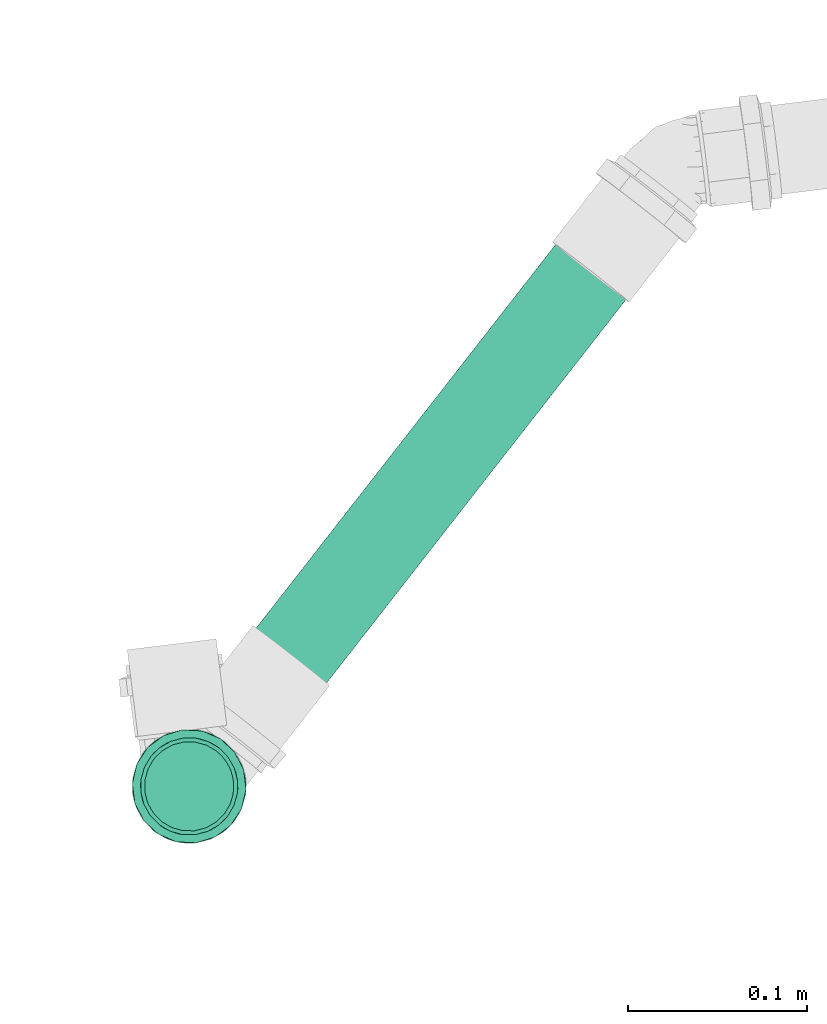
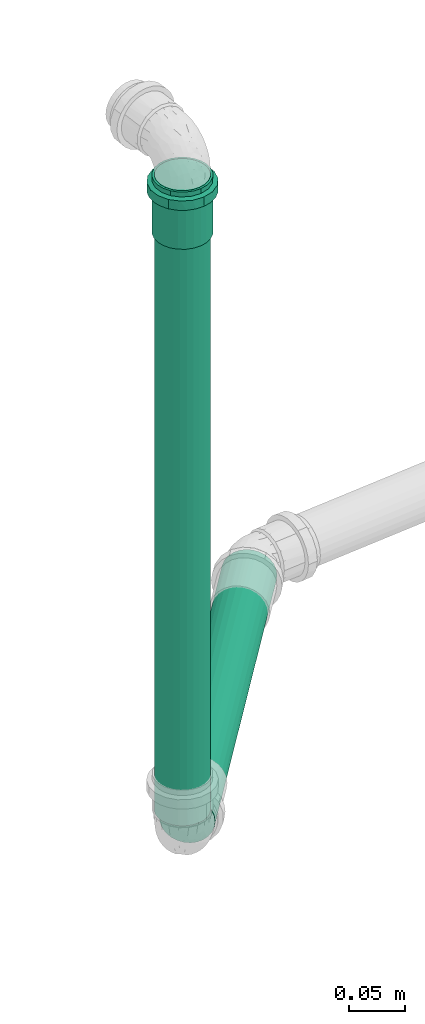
# One storey, part 32 of 97: 2 flow segments, 1 flow fitting.
"""IFC2X3 building model written with IfcOpenShell, lengths in centimetres."""

import ifcopenshell
import ifcopenshell.guid

model = None  # the IFC model being written
_history = None  # IfcOwnerHistory: only IFC2X3 demands one
_inside = {}  # id of a spatial element -> (the spatial element, [elements in it])
_under = {}  # id of a project, library or spatial element -> (it, [spatial elements below it])
_declared = {}  # id of a project -> (the project, [libraries it declares])
_typed = {}  # id of a type object -> (the type object, [elements of that type])
_made_of = {}  # id of a material, layer set ... -> (it, [elements and type objects made of it])


def new_model(schema):
    """Start an empty IFC model of exactly this schema.

    Asked for "IFC4X3", IfcOpenShell would pick the latest addendum, in which some entities
    have other attributes; the version numbers below select the first issue.
    IFC2X3 requires an IfcOwnerHistory on every rooted entity: one is made here for all.
    """
    global model, _history
    if schema == "IFC4X3":
        model = ifcopenshell.file(schema_version=(4, 3, 0, 0))
    else:
        model = ifcopenshell.file(schema=schema)
    _inside.clear()
    _under.clear()
    _declared.clear()
    _typed.clear()
    _made_of.clear()
    _history = None
    if model.schema == "IFC2X3":
        org = make("IfcOrganization", Name="unknown")
        user = make(
            "IfcPersonAndOrganization",
            ThePerson=make("IfcPerson", FamilyName="unknown"),
            TheOrganization=org,
        )
        app = make(
            "IfcApplication",
            ApplicationDeveloper=org,
            Version="unknown",
            ApplicationFullName="unknown",
            ApplicationIdentifier="unknown",
        )
        _history = make(
            "IfcOwnerHistory",
            OwningUser=user,
            OwningApplication=app,
            ChangeAction="ADDED",
            CreationDate=0,
        )
    return model


def make(cls, **values):
    """One entity of the class cls with the attributes given. An attribute that is None is left unset."""
    return model.create_entity(
        cls, **{name: value for name, value in values.items() if value is not None}
    )


def entity(cls, *values):
    """Any entity or typed value of the class cls, its attributes in the order of the schema. None: left unset."""
    e = model.create_entity(cls)
    for i, value in enumerate(values):
        if value is not None:
            e[i] = value
    return e


def rooted(cls, **values):
    """An entity with a GlobalId (a new one), such as an element, a storey or a relation."""
    return make(cls, GlobalId=ifcopenshell.guid.new(), OwnerHistory=_history, **values)


def si_unit(unit_type, name, prefix=None):
    """IfcSIUnit, for example si_unit("LENGTHUNIT", "METRE", prefix="MILLI")."""
    return make("IfcSIUnit", UnitType=unit_type, Prefix=prefix, Name=name)


def converted_unit(unit_type, name, factor, base, dimensions=None, offset=None):
    """IfcConversionBasedUnit, such as the inch: factor (a typed value) times the base unit."""
    return make(
        "IfcConversionBasedUnit"
        if offset is None
        else "IfcConversionBasedUnitWithOffset",
        ConversionOffset=offset,
        Dimensions=None
        if dimensions is None
        else entity("IfcDimensionalExponents", *dimensions),
        UnitType=unit_type,
        Name=name,
        ConversionFactor=make(
            "IfcMeasureWithUnit", ValueComponent=factor, UnitComponent=base
        ),
    )


def derived_unit(unit_type, elements):
    """IfcDerivedUnit: a product of units, each with its exponent."""
    return make(
        "IfcDerivedUnit",
        Elements=[
            make("IfcDerivedUnitElement", Unit=unit, Exponent=power)
            for unit, power in elements
        ],
        UnitType=unit_type,
    )


def assignment(units):
    """IfcUnitAssignment: the units of a project."""
    return None if units is None else make("IfcUnitAssignment", Units=units)


def point(xyz):
    """IfcCartesianPoint."""
    return None if xyz is None else make("IfcCartesianPoint", Coordinates=xyz)


def direction(xyz):
    """IfcDirection."""
    return None if xyz is None else make("IfcDirection", DirectionRatios=xyz)


def frame(location, z_axis=None, x_axis=None):
    """IfcAxis2Placement3D, a coordinate frame: its origin and axes. An axis left out is left unset."""
    return make(
        "IfcAxis2Placement3D",
        Location=point(location),
        Axis=direction(z_axis),
        RefDirection=direction(x_axis),
    )


def frame_2d(location, x_axis=None):
    """IfcAxis2Placement2D, a coordinate frame in the plane: its origin and x axis."""
    return make(
        "IfcAxis2Placement2D", Location=point(location), RefDirection=direction(x_axis)
    )


def origin():
    """The frame at (0, 0, 0) with its axes left unset."""
    return frame((0.0, 0.0, 0.0))


def place(relative_to, where):
    """IfcLocalPlacement: puts the frame where relative to a parent placement (None: the world)."""
    return make(
        "IfcLocalPlacement", PlacementRelTo=relative_to, RelativePlacement=where
    )


def context(
    kind, dimensions, precision=None, world=None, true_north=None, identifier=None
):
    """IfcGeometricRepresentationContext, for example the 3D "Model" context."""
    return make(
        "IfcGeometricRepresentationContext",
        ContextIdentifier=identifier,
        ContextType=kind,
        CoordinateSpaceDimension=dimensions,
        Precision=precision,
        WorldCoordinateSystem=world,
        TrueNorth=true_north,
    )


def subcontext(parent, identifier, kind, view, scale=None):
    """IfcGeometricRepresentationSubContext, for example "Body" below "Model"."""
    return make(
        "IfcGeometricRepresentationSubContext",
        ContextIdentifier=identifier,
        ContextType=kind,
        ParentContext=parent,
        TargetScale=scale,
        TargetView=view,
    )


def project(units=None, contexts=None):
    """IfcProject with its units and contexts."""
    return rooted(
        "IfcProject",
        Name="project",
        RepresentationContexts=contexts,
        UnitsInContext=assignment(units),
    )


def spatial(cls, under=None, at=None, **own):
    """A site, building, storey or space (cls), placed at a placement, below another one or the project."""
    s = rooted(cls, ObjectPlacement=at, **own)
    if under is not None:
        _under.setdefault(under.id(), (under, []))[1].append(s)
    return s


def profile(cls, at=None, kind="AREA", **sizes):
    """A parametric profile (cls). Its sizes go by their IFC names, for example OverallWidth=200.0."""
    return make(cls, ProfileType=kind, Position=at, **sizes)


def circle(**sizes):
    """IfcCircleProfileDef."""
    return profile("IfcCircleProfileDef", **sizes)


def extrude(swept, where, along, depth):
    """IfcExtrudedAreaSolid: the profile swept, set in the frame where, extruded along a direction by depth."""
    return make(
        "IfcExtrudedAreaSolid",
        SweptArea=swept,
        Position=where,
        ExtrudedDirection=direction(along),
        Depth=depth,
    )


def faces_of(points, faces, orient=None, outer=None):
    """IfcFace entities. A face is a list of loops; a loop is a list of indices into points, from 0.

    orient and outer hold one flag for each loop. By default every Orientation is true, the
    first loop of a face is its IfcFaceOuterBound and the others are IfcFaceBound.
    """
    made = []
    for i, loops in enumerate(faces):
        bounds = []
        for j, loop in enumerate(loops):
            is_outer = j == 0 if outer is None else outer[i][j]
            bounds.append(
                make(
                    "IfcFaceOuterBound" if is_outer else "IfcFaceBound",
                    Bound=make("IfcPolyLoop", Polygon=[points[k] for k in loop]),
                    Orientation=True if orient is None else orient[i][j],
                )
            )
        made.append(make("IfcFace", Bounds=bounds))
    return made


def faceted_brep(points, faces, orient=None, outer=None, voids=None):
    """IfcFacetedBrep: a solid bounded by flat faces; with voids (closed shells), ...WithVoids."""
    shared = [point(p) for p in points]
    hull = make("IfcClosedShell", CfsFaces=faces_of(shared, faces, orient, outer))
    if voids is None:
        return make("IfcFacetedBrep", Outer=hull)
    return make(
        "IfcFacetedBrepWithVoids",
        Outer=hull,
        Voids=[
            make(cls, CfsFaces=faces_of(shared, fs, o, b)) for cls, fs, o, b in voids
        ],
    )


def shape(context_of_items, identifier, shape_type, items):
    """IfcShapeRepresentation: the items that make up one representation, for example the "Body"."""
    return make(
        "IfcShapeRepresentation",
        ContextOfItems=context_of_items,
        RepresentationIdentifier=identifier,
        RepresentationType=shape_type,
        Items=items,
    )


def source(mapping_origin, context_of_items, identifier, shape_type, items):
    """IfcRepresentationMap: a shape defined once, which mapped items show again and again."""
    return make(
        "IfcRepresentationMap",
        MappingOrigin=mapping_origin,
        MappedRepresentation=shape(context_of_items, identifier, shape_type, items),
    )


def transform(
    local_origin,
    x_axis=None,
    y_axis=None,
    z_axis=None,
    scale=None,
    scale2=None,
    scale3=None,
    uniform=True,
):
    """IfcCartesianTransformationOperator3D, or its non-uniform kind. x_axis, y_axis, z_axis: its Axis1, 2, 3."""
    if uniform:
        return make(
            "IfcCartesianTransformationOperator3D",
            Axis1=direction(x_axis),
            Axis2=direction(y_axis),
            LocalOrigin=point(local_origin),
            Scale=scale,
            Axis3=direction(z_axis),
        )
    return make(
        "IfcCartesianTransformationOperator3DnonUniform",
        Axis1=direction(x_axis),
        Axis2=direction(y_axis),
        LocalOrigin=point(local_origin),
        Scale=scale,
        Axis3=direction(z_axis),
        Scale2=scale2,
        Scale3=scale3,
    )


def mapped(mapping_source, mapping_target):
    """IfcMappedItem: shows the shape of a source again, moved by a transform."""
    return make(
        "IfcMappedItem", MappingSource=mapping_source, MappingTarget=mapping_target
    )


def material(Name=None, Category=None):
    """IfcMaterial."""
    return make("IfcMaterial", Name=Name, Category=Category)


def made_of(thing, what):
    """Note that an element or type object is made of a material, layer set ...; save() writes the relation."""
    if what is not None:
        _made_of.setdefault(what.id(), (what, []))[1].append(thing)
    return thing


def type_object(cls, material=None, **own):
    """A type object (cls), such as IfcWallType, which elements share."""
    return made_of(rooted(cls, **own), material)


def type_shapes(of_type, sources):
    """Give a type object the sources (RepresentationMaps) that its elements show as mapped items."""
    of_type.RepresentationMaps = sources


def element(
    cls,
    number,
    at=None,
    inside=None,
    cuts=None,
    type_object=None,
    material=None,
    context=None,
    identifier="Body",
    shape_type=None,
    held_by="IfcProductDefinitionShape",
    body=None,
    shapes=None,
    **own,
):
    """One element of the class cls, such as IfcWall. Its Tag is "e" and its number.

    at: its placement. inside: the storey or other place that contains it. cuts: it is an
    opening in that element (IfcRelVoidsElement). A single representation is given by context,
    identifier, shape_type and body (its items); several are given by shapes. held_by: the class
    of the entity that holds the representations. save() writes the other relations.
    """
    e = rooted(cls, Tag="e%d" % number, ObjectPlacement=at, **own)
    if body is not None:
        shapes = [shape(context, identifier, shape_type, body)]
    if shapes is not None:
        e.Representation = make(held_by, Representations=shapes)
    if inside is not None:
        _inside.setdefault(inside.id(), (inside, []))[1].append(e)
    if cuts is not None:
        rooted(
            "IfcRelVoidsElement", RelatingBuildingElement=cuts, RelatedOpeningElement=e
        )
    if type_object is not None:
        _typed.setdefault(type_object.id(), (type_object, []))[1].append(e)
    return made_of(e, material)


def aggregate(whole, parts):
    """IfcRelAggregates: a whole, such as a stair, and the parts it consists of."""
    return rooted("IfcRelAggregates", RelatingObject=whole, RelatedObjects=parts)


def save(model, path):
    """Write the relations noted so far, then the file.

    IfcRelAggregates (storeys below a building ...), IfcRelContainedInSpatialStructure (elements
    in a storey), IfcRelDefinesByType, IfcRelAssociatesMaterial and IfcRelDeclares: one each for
    every whole, place, type object, material and project.
    """
    for whole, parts in _under.values():
        aggregate(whole, parts)
    for where, things in _inside.values():
        rooted(
            "IfcRelContainedInSpatialStructure",
            RelatedElements=things,
            RelatingStructure=where,
        )
    for kind, things in _typed.values():
        rooted("IfcRelDefinesByType", RelatedObjects=things, RelatingType=kind)
    for what, things in _made_of.values():
        rooted("IfcRelAssociatesMaterial", RelatedObjects=things, RelatingMaterial=what)
    for by, libraries in _declared.values():
        rooted("IfcRelDeclares", RelatingContext=by, RelatedDefinitions=libraries)
    model.write(path)


model = new_model("IFC2X3")

# Units and contexts
model_context = context("Model", 3, precision=0.001, world=origin(), true_north=direction((6.12303176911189e-17, 1.0)))
body_context = subcontext(model_context, "Body", "Model", "MODEL_VIEW")
ifc_project = project(units=[si_unit("LENGTHUNIT", "METRE", prefix="CENTI"), si_unit("AREAUNIT", "SQUARE_METRE"), si_unit("VOLUMEUNIT", "CUBIC_METRE"), converted_unit("PLANEANGLEUNIT", "DEGREE", entity("IfcRatioMeasure", 0.0174532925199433), si_unit("PLANEANGLEUNIT", "RADIAN"), dimensions=[0, 0, 0, 0, 0, 0, 0]), si_unit("MASSUNIT", "GRAM", prefix="KILO"), derived_unit("MASSDENSITYUNIT", [(si_unit("MASSUNIT", "GRAM", prefix="KILO"), 1), (si_unit("LENGTHUNIT", "METRE"), -3)]), derived_unit("MOMENTOFINERTIAUNIT", [(si_unit("LENGTHUNIT", "METRE"), 4)]), si_unit("TIMEUNIT", "SECOND"), si_unit("FREQUENCYUNIT", "HERTZ"), si_unit("THERMODYNAMICTEMPERATUREUNIT", "DEGREE_CELSIUS"), derived_unit("THERMALTRANSMITTANCEUNIT", [(si_unit("MASSUNIT", "GRAM", prefix="KILO"), 1), (si_unit("THERMODYNAMICTEMPERATUREUNIT", "KELVIN"), -1), (si_unit("TIMEUNIT", "SECOND"), -3)]), derived_unit("VOLUMETRICFLOWRATEUNIT", [(si_unit("LENGTHUNIT", "METRE"), 3), (si_unit("TIMEUNIT", "SECOND"), -1)]), si_unit("ELECTRICCURRENTUNIT", "AMPERE"), si_unit("ELECTRICVOLTAGEUNIT", "VOLT"), si_unit("POWERUNIT", "WATT"), si_unit("FORCEUNIT", "NEWTON", prefix="KILO"), si_unit("ILLUMINANCEUNIT", "LUX"), si_unit("LUMINOUSFLUXUNIT", "LUMEN"), si_unit("LUMINOUSINTENSITYUNIT", "CANDELA"), derived_unit("USERDEFINED", [(si_unit("MASSUNIT", "GRAM", prefix="KILO"), -1), (si_unit("LENGTHUNIT", "METRE"), -2), (si_unit("TIMEUNIT", "SECOND"), 3), (si_unit("LUMINOUSFLUXUNIT", "LUMEN"), 1)]), derived_unit("LINEARVELOCITYUNIT", [(si_unit("LENGTHUNIT", "METRE"), 1), (si_unit("TIMEUNIT", "SECOND"), -1)]), si_unit("PRESSUREUNIT", "PASCAL"), derived_unit("USERDEFINED", [(si_unit("LENGTHUNIT", "METRE"), -2), (si_unit("MASSUNIT", "GRAM", prefix="KILO"), 1), (si_unit("TIMEUNIT", "SECOND"), -2)]), derived_unit("LINEARFORCEUNIT", [(si_unit("MASSUNIT", "GRAM", prefix="KILO"), 1), (si_unit("LENGTHUNIT", "METRE"), 1), (si_unit("TIMEUNIT", "SECOND"), -2), (si_unit("LENGTHUNIT", "METRE"), -1)]), derived_unit("PLANARFORCEUNIT", [(si_unit("MASSUNIT", "GRAM", prefix="KILO"), 1), (si_unit("LENGTHUNIT", "METRE"), 1), (si_unit("TIMEUNIT", "SECOND"), -2), (si_unit("LENGTHUNIT", "METRE"), -2)])], contexts=[model_context])

# Site, building, storey
site_placement = place(None, origin())
site = spatial("IfcSite", under=ifc_project, at=site_placement, Name="Default", CompositionType="ELEMENT")
building_placement = place(site_placement, origin())
building = spatial("IfcBuilding", under=site, at=building_placement, Name="HIDROSSANITÁRIO", CompositionType="ELEMENT")
storey_placement = place(building_placement, frame((0.0, 0.0, -260.0)))
storey = spatial("IfcBuildingStorey", under=building, at=storey_placement, Name="TÉRREO-HID", CompositionType="ELEMENT", Elevation=-260.0)

# Flow segments
pipe_segment_type = type_object("IfcPipeSegmentType", Name="Tipos de tubos:Tubo - Esgoto - Série Normal", PredefinedType="NOTDEFINED")
flow_segment_1_placement = place(storey_placement, origin())
element("IfcFlowSegment", 1, at=flow_segment_1_placement, inside=storey, type_object=pipe_segment_type, Name="Tipos de tubos:Tubo - Esgoto - Série Normal", ObjectType="Tipos de tubos:Tubo - Esgoto - Série Normal", context=body_context, shape_type="SweptSolid", body=[
    extrude(circle(Radius=2.5, at=frame_2d((-1.81224363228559e-13, 8.15924908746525e-15), x_axis=(1.0, 0.0))), frame((-639.041569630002, 3014.14893205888, -25.8533171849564), z_axis=(-0.615313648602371, -0.788028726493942, 0.0199960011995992), x_axis=(-0.788186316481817, 0.615436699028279, 0.0)), (0.0, 0.0, 1.0), 39.6599236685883),
])
flow_segment_2_placement = place(storey_placement, origin())
element("IfcFlowSegment", 2, at=flow_segment_2_placement, inside=storey, type_object=pipe_segment_type, Name="Tipos de tubos:Tubo - Esgoto - Série Normal", ObjectType="Tipos de tubos:Tubo - Esgoto - Série Normal", context=body_context, shape_type="SweptSolid", body=[
    extrude(circle(Radius=2.5, at=frame_2d((0.0, -4.33146851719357e-13), x_axis=(1.0, 0.0))), frame((-665.299705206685, 2980.52028561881, -21.9314800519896)), (0.0, 0.0, 1.0), 68.8114800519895),
])

# Flow fitting
ifc_material = material(Name="PVC Branco")
pipe_fitting_type = type_object("IfcPipeFittingType", Name="Luva Simples para Conexão - Serie Normal - Esgoto - MEP - Tigre:Standard", PredefinedType="NOTDEFINED", material=ifc_material)
shared_shape = source(origin(), body_context, "Body", "Brep", [
    faceted_brep([(1.65999999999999, 1.59, -2.75396078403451), (1.65999999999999, 2.24859956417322, -2.24859956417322), (1.65999999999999, 1.35999999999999, -2.35558909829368), (1.65999999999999, 0.703987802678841, -2.62731824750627), (1.65999999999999, 0.82304456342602, -3.07164412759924), (1.65999999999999, 1.9233304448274, -1.92333044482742), (1.65999999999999, 2.75396078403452, -1.59), (1.65999999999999, 2.35558909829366, -1.36000000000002), (1.65999999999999, 2.62731824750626, -0.703987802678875), (1.65999999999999, 3.07164412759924, -0.823044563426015), (1.65999999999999, 2.72, 0.0), (1.65999999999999, 3.18, 0.0), (1.65999999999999, 2.62731824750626, 0.703987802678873), (1.65999999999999, 3.07164412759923, 0.823044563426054), (1.65999999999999, 2.35558909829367, 1.36000000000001), (1.65999999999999, 2.7539607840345, 1.59000000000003), (1.65999999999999, 1.9233304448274, 1.92333044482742), (1.65999999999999, 2.24859956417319, 2.24859956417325), (1.65999999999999, 1.35999999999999, 2.35558909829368), (1.65999999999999, 1.58999999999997, 2.75396078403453), (1.65999999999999, 0.703987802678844, 2.62731824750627), (1.65999999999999, 0.823044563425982, 3.07164412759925), (1.65999999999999, 0.0, 2.72), (1.65999999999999, 0.0, 3.18), (1.65999999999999, -0.703987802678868, 2.62731824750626), (1.65999999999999, -0.823044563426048, 3.07164412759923), (1.65999999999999, -1.36000000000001, 2.35558909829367), (1.65999999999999, -1.59000000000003, 2.7539607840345), (1.65999999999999, -1.92333044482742, 1.9233304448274), (1.65999999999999, -2.24859956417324, 2.2485995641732), (1.65999999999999, -2.35558909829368, 1.35999999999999), (1.65999999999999, -2.75396078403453, 1.58999999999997), (1.65999999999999, -3.07164412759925, 0.823044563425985), (1.65999999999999, -2.62731824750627, 0.703987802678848), (1.65999999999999, -3.18, 0.0), (1.65999999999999, -2.72, 0.0), (1.65999999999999, -3.07164412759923, -0.823044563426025), (1.65999999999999, -2.62731824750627, -0.703987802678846), (1.65999999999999, -2.75396078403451, -1.59000000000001), (1.65999999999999, -2.35558909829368, -1.35999999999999), (1.65999999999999, -2.24859956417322, -2.24859956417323), (1.65999999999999, -1.92333044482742, -1.9233304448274), (1.65999999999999, -1.58999999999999, -2.75396078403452), (1.65999999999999, -1.36000000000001, -2.35558909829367), (1.65999999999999, -0.823044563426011, -3.07164412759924), (1.65999999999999, -0.70398780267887, -2.62731824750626), (1.65999999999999, 0.0, -3.18), (1.65999999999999, 0.0, -2.72), (0.650000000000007, -1.07081089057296, 2.94292196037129), (0.650000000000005, -2.43590738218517, 2.04420038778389), (0.650000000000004, -2.7120498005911, 1.56595386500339), (0.650000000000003, -2.98819221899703, 1.08770734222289), (0.650000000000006, -1.58976972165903, 2.75409372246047), (0.650000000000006, -2.0128385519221, 2.39914705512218), (0.650000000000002, -3.08409610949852, 0.54385367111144), (0.650000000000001, -3.18, 0.0), (0.650000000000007, -0.551852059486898, 3.13175019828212), (0.650000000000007, 0.552637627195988, 3.13161167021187), (0.650000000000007, 0.000392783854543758, 3.13168093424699), (0.650000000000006, 2.01344030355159, 2.39864206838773), (0.650000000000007, 1.07154907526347, 2.94265325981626), (0.650000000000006, 1.59046052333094, 2.75369484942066), (0.650000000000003, 2.98846497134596, 1.08695773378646), (0.650000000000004, 2.7124425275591, 1.56527351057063), (0.650000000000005, 2.43642008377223, 2.0435892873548), (0.650000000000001, 3.18, 0.0), (0.649999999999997, 2.43642008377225, -2.04358928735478), (0.649999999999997, 2.71244252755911, -1.5652735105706), (0.649999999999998, 2.98846497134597, -1.08695773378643), (0.649999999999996, 1.59046052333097, -2.75369484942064), (0.649999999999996, 2.01344030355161, -2.39864206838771), (0.649999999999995, 1.07154907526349, -2.94265325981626), (0.649999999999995, 0.552637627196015, -3.13161167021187), (0.649999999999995, -0.551852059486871, -3.13175019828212), (0.649999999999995, 0.000392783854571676, -3.13168093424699), (0.649999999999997, -2.01283855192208, -2.3991470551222), (0.649999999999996, -1.58976972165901, -2.75409372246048), (0.649999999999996, -1.07081089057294, -2.9429219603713), (0.649999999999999, -2.98819221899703, -1.08770734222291), (0.649999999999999, -2.71204980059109, -1.56595386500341), (0.649999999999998, -2.43590738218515, -2.04420038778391), (0.65, -3.08409610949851, -0.543853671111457), (0.64999999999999, -3.06961738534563, -0.625959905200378), (6.20000000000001, 1.36, -2.35558909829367), (6.20000000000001, 1.92333044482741, -1.92333044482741), (6.20000000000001, 1.24999999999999, -2.1650635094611), (6.20000000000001, 0.647047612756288, -2.41481456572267), (6.20000000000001, 0.70398780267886, -2.62731824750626), (6.20000000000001, 1.76776695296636, -1.76776695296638), (6.20000000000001, 2.35558909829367, -1.36), (6.20000000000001, 2.16506350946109, -1.25000000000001), (6.20000000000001, 2.41481456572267, -0.647047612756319), (6.20000000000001, 2.62731824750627, -0.703987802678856), (6.20000000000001, 2.5, 0.0), (6.20000000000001, 2.72, 0.0), (6.20000000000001, 2.41481456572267, 0.647047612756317), (6.20000000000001, 2.62731824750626, 0.703987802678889), (6.20000000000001, 2.16506350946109, 1.25000000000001), (6.20000000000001, 2.35558909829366, 1.36000000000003), (6.20000000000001, 1.76776695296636, 1.76776695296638), (6.20000000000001, 1.92333044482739, 1.92333044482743), (6.20000000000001, 1.24999999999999, 2.1650635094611), (6.20000000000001, 1.35999999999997, 2.35558909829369), (6.20000000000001, 0.64704761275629, 2.41481456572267), (6.20000000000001, 0.703987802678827, 2.62731824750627), (6.20000000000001, 0.0, 2.5), (6.20000000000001, 0.0, 2.72), (6.20000000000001, -0.647047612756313, 2.41481456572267), (6.20000000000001, -0.703987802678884, 2.62731824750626), (6.20000000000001, -1.25000000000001, 2.16506350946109), (6.20000000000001, -1.36000000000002, 2.35558909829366), (6.20000000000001, -1.76776695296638, 1.76776695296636), (6.20000000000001, -1.92333044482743, 1.92333044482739), (6.20000000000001, -2.1650635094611, 1.24999999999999), (6.20000000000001, -2.35558909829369, 1.35999999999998), (6.20000000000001, -2.62731824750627, 0.703987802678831), (6.20000000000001, -2.41481456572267, 0.647047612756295), (6.20000000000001, -2.72, 0.0), (6.20000000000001, -2.5, 0.0), (6.20000000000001, -2.62731824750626, -0.703987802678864), (6.20000000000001, -2.41481456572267, -0.647047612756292), (6.20000000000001, -2.35558909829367, -1.36000000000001), (6.20000000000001, -2.1650635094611, -1.24999999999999), (6.20000000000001, -1.9233304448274, -1.92333044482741), (6.20000000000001, -1.76776695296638, -1.76776695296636), (6.20000000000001, -1.36, -2.35558909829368), (6.20000000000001, -1.25000000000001, -2.16506350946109), (6.20000000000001, -0.703987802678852, -2.62731824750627), (6.20000000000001, -0.647047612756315, -2.41481456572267), (6.20000000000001, 0.0, -2.72), (6.20000000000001, 0.0, -2.5), (0.0, 1.24999999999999, -2.1650635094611), (0.0, 1.92333044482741, -1.92333044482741), (0.0, 1.36, -2.35558909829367), (0.0, 0.647047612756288, -2.41481456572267), (0.0, 1.76776695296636, -1.76776695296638), (0.0, 2.35558909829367, -1.36), (0.0, 2.16506350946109, -1.25000000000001), (0.0, 2.41481456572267, -0.647047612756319), (0.0, 2.62731824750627, -0.703987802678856), (0.0, 2.5, 0.0), (0.0, 2.72, 0.0), (0.0, 2.41481456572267, 0.647047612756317), (0.0, 2.62731824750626, 0.703987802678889), (0.0, 2.16506350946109, 1.25000000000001), (0.0, 2.35558909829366, 1.36000000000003), (0.0, 1.76776695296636, 1.76776695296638), (0.0, 1.92333044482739, 1.92333044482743), (0.0, 1.24999999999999, 2.1650635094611), (0.0, 1.35999999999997, 2.35558909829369), (0.0, 0.64704761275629, 2.41481456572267), (0.0, 0.703987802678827, 2.62731824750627), (0.0, 0.0, 2.5), (0.0, 0.0, 2.72), (0.0, -0.647047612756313, 2.41481456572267), (0.0, -0.703987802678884, 2.62731824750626), (0.0, -1.25000000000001, 2.16506350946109), (0.0, -1.36000000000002, 2.35558909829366), (0.0, -1.76776695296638, 1.76776695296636), (0.0, -1.92333044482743, 1.92333044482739), (0.0, -2.1650635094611, 1.24999999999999), (0.0, -2.35558909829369, 1.35999999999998), (0.0, -2.62731824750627, 0.703987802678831), (0.0, -2.41481456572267, 0.647047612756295), (0.0, -2.72, 0.0), (0.0, -2.5, 0.0), (0.0, -2.62731824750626, -0.703987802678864), (0.0, -2.41481456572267, -0.647047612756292), (0.0, -2.35558909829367, -1.36000000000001), (0.0, -2.1650635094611, -1.24999999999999), (0.0, -1.9233304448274, -1.92333044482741), (0.0, -1.76776695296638, -1.76776695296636), (0.0, -1.36, -2.35558909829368), (0.0, -1.25000000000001, -2.16506350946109), (0.0, -0.703987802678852, -2.62731824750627), (0.0, -0.647047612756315, -2.41481456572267), (0.0, 0.0, -2.72), (0.0, 0.0, -2.5), (0.0, 0.70398780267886, -2.62731824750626), (0.53, -2.63796899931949, 0.465183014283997), (0.529999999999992, -2.62558467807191, 0.535412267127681), (0.530000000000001, -2.55593799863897, 0.930366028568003), (0.530000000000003, -2.08354342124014, 1.74849844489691), (0.530000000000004, -1.72167322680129, 2.05210062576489), (0.530000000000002, -2.31974070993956, 1.33943223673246), (0.530000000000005, -0.472024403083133, 2.67872972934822), (0.530000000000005, -0.915913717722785, 2.51721626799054), (0.53, -2.72, 0.0), (0.530000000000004, -1.35980303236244, 2.35570280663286), (0.530000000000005, 0.916545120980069, 2.51698643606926), (0.530000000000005, 1.36039390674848, 2.35536163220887), (0.530000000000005, 0.47269633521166, 2.67861123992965), (0.530000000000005, 1.72218793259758, 2.05166868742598), (0.530000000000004, 2.08398195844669, 1.7479757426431), (0.530000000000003, 2.5561712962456, 0.929724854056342), (0.53, 2.72, 0.0), (0.530000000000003, 2.32007662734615, 1.33885029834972), (0.530000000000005, 0.000335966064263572, 2.67867048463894), (0.529999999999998, 2.55617129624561, -0.929724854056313), (0.529999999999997, 2.08398195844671, -1.74797574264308), (0.529999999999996, 1.7221879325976, -2.05166868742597), (0.529999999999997, 2.32007662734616, -1.3388502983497), (0.529999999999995, 0.472696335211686, -2.67861123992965), (0.529999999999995, 0.916545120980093, -2.51698643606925), (0.529999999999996, 1.3603939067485, -2.35536163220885), (0.529999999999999, -2.63796899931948, -0.465183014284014), (0.529999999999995, -0.915913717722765, -2.51721626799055), (0.529999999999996, -1.35980303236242, -2.35570280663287), (0.529999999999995, -0.47202440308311, -2.67872972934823), (0.529999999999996, -1.72167322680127, -2.0521006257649), (0.529999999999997, -2.08354342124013, -1.74849844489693), (0.529999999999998, -2.55593799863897, -0.930366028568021), (0.529999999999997, -2.31974070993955, -1.33943223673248), (0.529999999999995, 0.000335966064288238, -2.67867048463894), (3.9, -2.5, 0.0), (3.9, 2.5, 0.0)], [[[0, 1, 2]], [[0, 2, 3]], [[3, 4, 0]], [[2, 1, 5]], [[6, 5, 1]], [[7, 5, 6]], [[8, 7, 6]], [[8, 6, 9]], [[8, 9, 10]], [[10, 9, 11]], [[12, 10, 11]], [[12, 11, 13]], [[14, 12, 13]], [[14, 13, 15]], [[16, 14, 15]], [[15, 17, 16]], [[17, 18, 16]], [[17, 19, 18]], [[18, 19, 20]], [[21, 20, 19]], [[20, 21, 22]], [[22, 21, 23]], [[22, 23, 24]], [[24, 23, 25]], [[24, 25, 26]], [[27, 26, 25]], [[27, 28, 26]], [[28, 27, 29]], [[30, 28, 29]], [[31, 30, 29]], [[32, 30, 31]], [[33, 30, 32]], [[33, 32, 34]], [[35, 33, 34]], [[36, 35, 34]], [[36, 37, 35]], [[37, 36, 38]], [[39, 37, 38]], [[39, 38, 40]], [[39, 40, 41]], [[40, 42, 41]], [[41, 42, 43]], [[43, 42, 44]], [[44, 45, 43]], [[46, 45, 44]], [[4, 47, 46]], [[46, 47, 45]], [[4, 3, 47]], [[48, 27, 25]], [[31, 29, 49]], [[31, 49, 50, 51]], [[52, 53, 27]], [[32, 51, 54]], [[54, 55, 34]], [[54, 34, 32]], [[25, 56, 48]], [[49, 29, 53]], [[23, 57, 58, 56]], [[59, 19, 17]], [[27, 53, 29]], [[48, 52, 27]], [[31, 51, 32]], [[57, 23, 21]], [[60, 19, 61]], [[15, 62, 63, 64]], [[19, 60, 21]], [[15, 13, 62]], [[17, 64, 59]], [[57, 21, 60]], [[23, 56, 25]], [[15, 64, 17]], [[13, 65, 62]], [[13, 11, 65]], [[59, 61, 19]], [[65, 11, 9]], [[6, 1, 66]], [[6, 66, 67, 68]], [[69, 70, 0]], [[68, 65, 9]], [[71, 69, 0]], [[71, 0, 4]], [[4, 72, 71]], [[66, 1, 70]], [[46, 73, 74, 72]], [[75, 76, 42]], [[0, 70, 1]], [[75, 42, 40]], [[6, 68, 9]], [[73, 46, 44]], [[77, 42, 76]], [[38, 78, 79, 80]], [[42, 77, 44]], [[38, 36, 78]], [[40, 80, 75]], [[73, 44, 77]], [[46, 72, 4]], [[38, 80, 40]], [[36, 81, 82, 78]], [[55, 81, 34]], [[34, 81, 36]], [[83, 84, 85]], [[83, 85, 86]], [[86, 87, 83]], [[85, 84, 88]], [[89, 88, 84]], [[88, 89, 90]], [[90, 89, 91]], [[92, 91, 89]], [[92, 93, 91]], [[93, 92, 94]], [[95, 93, 94]], [[94, 96, 95]], [[95, 96, 97]], [[98, 97, 96]], [[97, 98, 99]], [[99, 98, 100]], [[101, 99, 100]], [[100, 102, 101]], [[101, 102, 103]], [[104, 103, 102]], [[103, 104, 105]], [[105, 104, 106]], [[105, 106, 107]], [[107, 106, 108]], [[107, 108, 109]], [[110, 109, 108]], [[110, 111, 109]], [[111, 110, 112]], [[112, 113, 111]], [[114, 113, 112]], [[113, 114, 115]], [[115, 116, 113]], [[117, 116, 115]], [[117, 118, 116]], [[119, 118, 117]], [[119, 120, 118]], [[120, 119, 121]], [[121, 122, 120]], [[122, 121, 123]], [[122, 123, 124]], [[123, 125, 124]], [[124, 125, 126]], [[126, 125, 127]], [[127, 128, 126]], [[129, 128, 127]], [[87, 130, 129]], [[129, 130, 128]], [[87, 86, 130]], [[131, 132, 133]], [[134, 131, 133]], [[135, 132, 131]], [[132, 135, 136]], [[137, 136, 135]], [[138, 136, 137]], [[136, 138, 139]], [[138, 140, 139]], [[141, 139, 140]], [[141, 140, 142]], [[142, 143, 141]], [[144, 143, 142]], [[143, 144, 145]], [[146, 145, 144]], [[147, 145, 146]], [[147, 146, 148]], [[148, 149, 147]], [[150, 149, 148]], [[149, 150, 151]], [[152, 151, 150]], [[153, 151, 152]], [[154, 153, 152]], [[155, 153, 154]], [[156, 155, 154]], [[155, 156, 157]], [[156, 158, 157]], [[159, 157, 158]], [[158, 160, 159]], [[159, 160, 161]], [[162, 161, 160]], [[160, 163, 162]], [[162, 163, 164]], [[163, 165, 164]], [[164, 165, 166]], [[165, 167, 166]], [[168, 166, 167]], [[167, 169, 168]], [[170, 168, 169]], [[171, 170, 169]], [[171, 172, 170]], [[173, 172, 171]], [[174, 172, 173]], [[173, 175, 174]], [[174, 175, 176]], [[175, 177, 176]], [[177, 134, 178]], [[176, 177, 178]], [[133, 178, 134]], [[162, 179, 180, 181]], [[159, 182, 183]], [[182, 161, 181, 184]], [[185, 155, 186]], [[161, 162, 181]], [[187, 179, 164]], [[183, 188, 157]], [[183, 157, 159]], [[161, 182, 159]], [[189, 190, 149]], [[189, 149, 151]], [[157, 188, 186]], [[157, 186, 155]], [[153, 155, 185]], [[164, 179, 162]], [[151, 191, 189]], [[147, 192, 193]], [[143, 194, 195]], [[194, 145, 193, 196]], [[143, 195, 141]], [[10, 12, 96, 94]], [[149, 192, 147]], [[153, 185, 197, 191]], [[153, 191, 151]], [[145, 147, 193]], [[190, 192, 149]], [[145, 194, 143]], [[139, 195, 198]], [[132, 199, 200]], [[199, 136, 198, 201]], [[202, 178, 203]], [[136, 139, 198]], [[139, 141, 195]], [[92, 8, 10, 94]], [[133, 203, 178]], [[200, 204, 133]], [[136, 199, 132]], [[205, 164, 166]], [[206, 207, 172]], [[133, 204, 203]], [[206, 172, 174]], [[176, 178, 202]], [[200, 133, 132]], [[174, 208, 206]], [[170, 209, 210]], [[166, 211, 205]], [[211, 168, 210, 212]], [[168, 211, 166]], [[172, 209, 170]], [[176, 202, 213, 208]], [[176, 208, 174]], [[168, 170, 210]], [[207, 209, 172]], [[205, 187, 164]], [[116, 118, 214, 165, 163]], [[156, 109, 111, 158]], [[111, 113, 160, 158]], [[113, 116, 163, 160]], [[107, 109, 156, 154]], [[154, 152, 105, 107]], [[103, 105, 152, 150]], [[103, 150, 148, 101]], [[142, 95, 97, 144]], [[97, 99, 146, 144]], [[99, 101, 148, 146]], [[93, 95, 142, 140, 215]], [[215, 140, 138, 91, 93]], [[135, 131, 85, 88]], [[90, 91, 138, 137]], [[90, 137, 135, 88]], [[86, 85, 131, 134]], [[134, 177, 130, 86]], [[128, 130, 177, 175]], [[128, 175, 173, 126]], [[167, 120, 122, 169]], [[122, 124, 171, 169]], [[124, 126, 173, 171]], [[118, 120, 167, 165, 214]], [[211, 78, 82, 81, 55, 187, 205]], [[79, 78, 211, 212, 210, 80]], [[75, 80, 210, 209, 207, 76]], [[207, 206, 208, 73, 77, 76]], [[213, 202, 72, 74, 73, 208]], [[203, 204, 69, 71, 72, 202]], [[198, 195, 65, 68]], [[199, 201, 198, 68, 67, 66]], [[204, 200, 199, 66, 70, 69]], [[195, 194, 62, 65]], [[197, 185, 56, 58, 57, 191]], [[63, 62, 194, 196, 193, 64]], [[57, 60, 61, 190, 189, 191]], [[193, 192, 190, 61, 59, 64]], [[48, 56, 185, 186, 188, 52]], [[187, 55, 54, 51, 181, 180, 179]], [[182, 184, 181, 51, 50, 49]], [[188, 183, 182, 49, 53, 52]], [[30, 33, 115, 114]], [[117, 115, 33, 35]], [[26, 28, 112, 110]], [[114, 112, 28, 30]], [[24, 26, 110, 108]], [[108, 106, 22, 24]], [[18, 20, 104, 102]], [[100, 16, 18, 102]], [[12, 14, 98, 96]], [[100, 98, 14, 16]], [[104, 20, 22, 106]], [[89, 7, 8, 92]], [[83, 87, 3, 2]], [[7, 89, 84, 5]], [[83, 2, 5, 84]], [[87, 129, 47, 3]], [[43, 45, 127, 125]], [[123, 41, 43, 125]], [[37, 39, 121, 119]], [[123, 121, 39, 41]], [[35, 37, 119, 117]], [[127, 45, 47, 129]]]),
])
type_shapes(pipe_fitting_type, [shared_shape])
flow_fitting_placement = place(storey_placement, frame((-665.299705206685, 2980.52028561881, 46.8799999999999), z_axis=(0.992511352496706, 0.122152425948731, 0.0), x_axis=(0.0, 0.0, -1.0)))
element("IfcFlowFitting", 3, at=flow_fitting_placement, inside=storey, type_object=pipe_fitting_type, material=ifc_material, Name="Luva Simples para Conexão - Serie Normal - Esgoto - MEP - Tigre:Standard", ObjectType="Luva Simples para Conexão - Serie Normal - Esgoto - MEP - Tigre:Standard", context=body_context, shape_type="MappedRepresentation", body=[
    mapped(shared_shape, transform((0.0, 0.0, 0.0), scale=1.0)),
])

save(model, "model.ifc")
